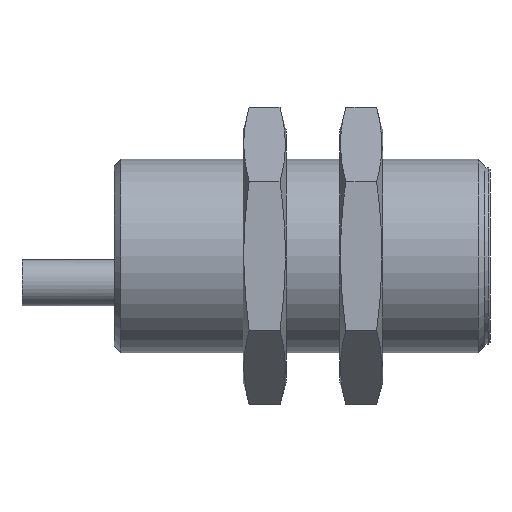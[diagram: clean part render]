
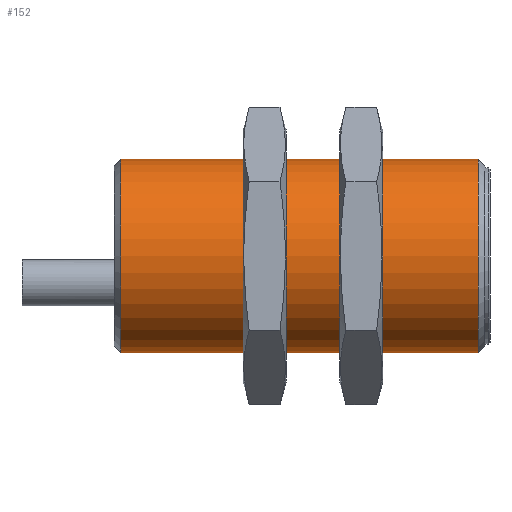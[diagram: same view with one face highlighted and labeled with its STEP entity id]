
A CAD part, front view. The second image highlights one B-rep face of the part: STEP entity #152.
In plain terms, the highlighted cylindrical face has radius 9 mm (diameter 18 mm), a full revolution.
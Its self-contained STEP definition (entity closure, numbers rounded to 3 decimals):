
#152 = ADVANCED_FACE( '', ( #293, #294 ), #295, .T. );
#293 = FACE_OUTER_BOUND( '', #427, .T. );
#294 = FACE_OUTER_BOUND( '', #428, .T. );
#295 = CYLINDRICAL_SURFACE( '', #429, 9. );
#427 = EDGE_LOOP( '', ( #645 ) );
#428 = EDGE_LOOP( '', ( #646 ) );
#429 = AXIS2_PLACEMENT_3D( '', #647, #648, #649 );
#645 = ORIENTED_EDGE( '', *, *, #828, .T. );
#646 = ORIENTED_EDGE( '', *, *, #781, .T. );
#647 = CARTESIAN_POINT( '', ( -34.5, 0., 0. ) );
#648 = DIRECTION( '', ( -1., 0., 0. ) );
#649 = DIRECTION( '', ( 0., 0., -1. ) );
#781 = EDGE_CURVE( '', #908, #908, #909, .T. );
#828 = EDGE_CURVE( '', #979, #979, #980, .F. );
#908 = VERTEX_POINT( '', #1122 );
#909 = CIRCLE( '', #1123, 9. );
#979 = VERTEX_POINT( '', #1251 );
#980 = CIRCLE( '', #1252, 9. );
#1122 = CARTESIAN_POINT( '', ( -0.6, 0., 9. ) );
#1123 = AXIS2_PLACEMENT_3D( '', #1321, #1322, #1323 );
#1251 = CARTESIAN_POINT( '', ( -33.9, 0., 9. ) );
#1252 = AXIS2_PLACEMENT_3D( '', #1389, #1390, #1391 );
#1321 = CARTESIAN_POINT( '', ( -0.6, 0., 0. ) );
#1322 = DIRECTION( '', ( -1., 0., 0. ) );
#1323 = DIRECTION( '', ( 0., 0., 1. ) );
#1389 = CARTESIAN_POINT( '', ( -33.9, 0., 0. ) );
#1390 = DIRECTION( '', ( -1., 0., 0. ) );
#1391 = DIRECTION( '', ( 0., 0., 1. ) );
